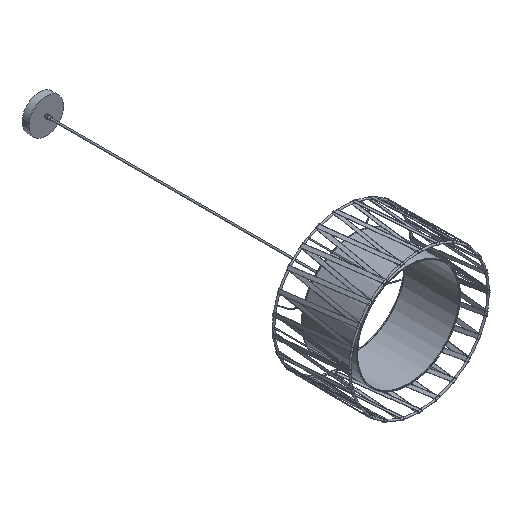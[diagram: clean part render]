
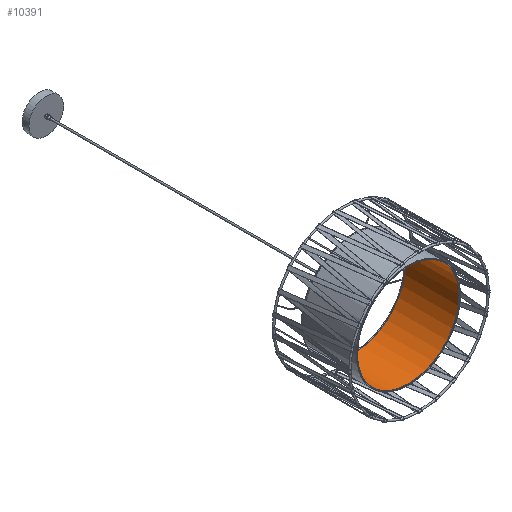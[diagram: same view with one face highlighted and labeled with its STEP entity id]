
A CAD part, isometric view. The second image highlights one B-rep face of the part: STEP entity #10391.
In plain terms, the highlighted cylindrical face has radius 149 mm (diameter 298 mm), a full revolution.
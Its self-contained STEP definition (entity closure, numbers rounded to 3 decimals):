
#117=CYLINDRICAL_SURFACE('',#11687,149.);
#950=LINE('',#20448,#1617);
#1617=VECTOR('',#14468,150.);
#2905=FACE_OUTER_BOUND('',#3635,.T.);
#3635=EDGE_LOOP('',(#9183,#9184,#9185,#9186));
#4383=CIRCLE('',#11676,149.);
#4387=CIRCLE('',#11682,149.);
#5265=VERTEX_POINT('',#20430);
#5268=VERTEX_POINT('',#20439);
#6597=EDGE_CURVE('',#5265,#5265,#4383,.T.);
#6601=EDGE_CURVE('',#5268,#5268,#4387,.T.);
#6605=EDGE_CURVE('',#5265,#5268,#950,.T.);
#9183=ORIENTED_EDGE('',*,*,#6597,.T.);
#9184=ORIENTED_EDGE('',*,*,#6605,.T.);
#9185=ORIENTED_EDGE('',*,*,#6601,.T.);
#9186=ORIENTED_EDGE('',*,*,#6605,.F.);
#10391=ADVANCED_FACE('',(#2905),#117,.F.);
#11676=AXIS2_PLACEMENT_3D('',#20431,#14444,#14445);
#11682=AXIS2_PLACEMENT_3D('',#20440,#14456,#14457);
#11687=AXIS2_PLACEMENT_3D('',#20447,#14466,#14467);
#14444=DIRECTION('center_axis',(0.,-1.,0.));
#14445=DIRECTION('ref_axis',(1.,0.,0.));
#14456=DIRECTION('center_axis',(0.,1.,0.));
#14457=DIRECTION('ref_axis',(1.,0.,0.));
#14466=DIRECTION('center_axis',(0.,1.,0.));
#14467=DIRECTION('ref_axis',(1.,0.,0.));
#14468=DIRECTION('',(0.,1.,0.));
#20430=CARTESIAN_POINT('',(-149.,32.,0.));
#20431=CARTESIAN_POINT('Origin',(0.,32.,0.));
#20439=CARTESIAN_POINT('',(-149.,188.,0.));
#20440=CARTESIAN_POINT('Origin',(0.,188.,0.));
#20447=CARTESIAN_POINT('Origin',(0.,110.,0.));
#20448=CARTESIAN_POINT('',(-149.,110.,0.));
